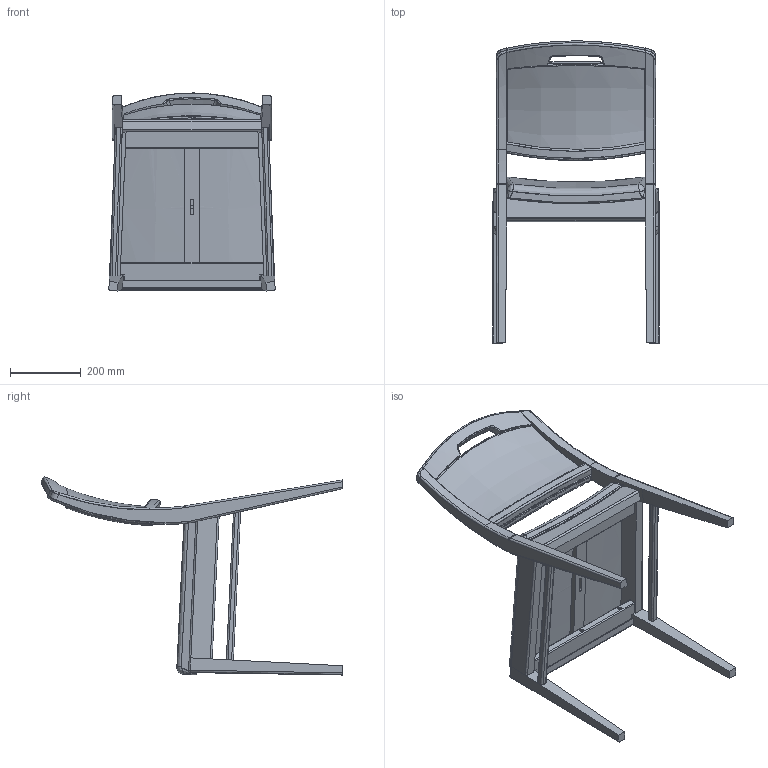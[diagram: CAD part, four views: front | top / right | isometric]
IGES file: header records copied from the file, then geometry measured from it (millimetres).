
Start section: SolidWorks IGES file using analytic representation for surfaces
Global section: file name: C:\Users\emanuel\Desktop\Siana_3D\Regina SG818.IGS; native system: SolidWorks 2015; preprocessor: SolidWorks 2015; author: Emanuel; date: 151113.150628; units: millimetre
Bounding box: 469.53 x 852.45 x 559.42 mm (x, y, z)
Surface area: 2334837.7 mm2 (no closed solid volume)
Topology: 0 solids, 0 shells, 1450 faces, 15816 edges, 15794 vertices
Faces by surface type: bspline 938, revolution 512
